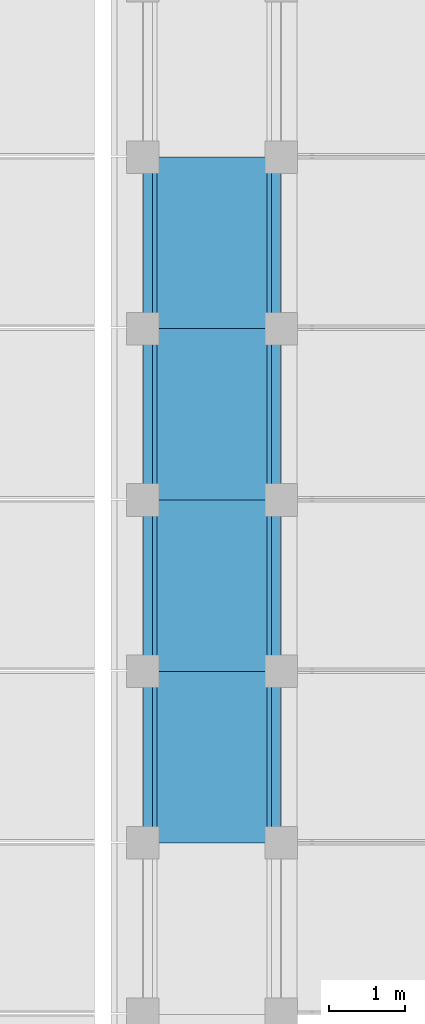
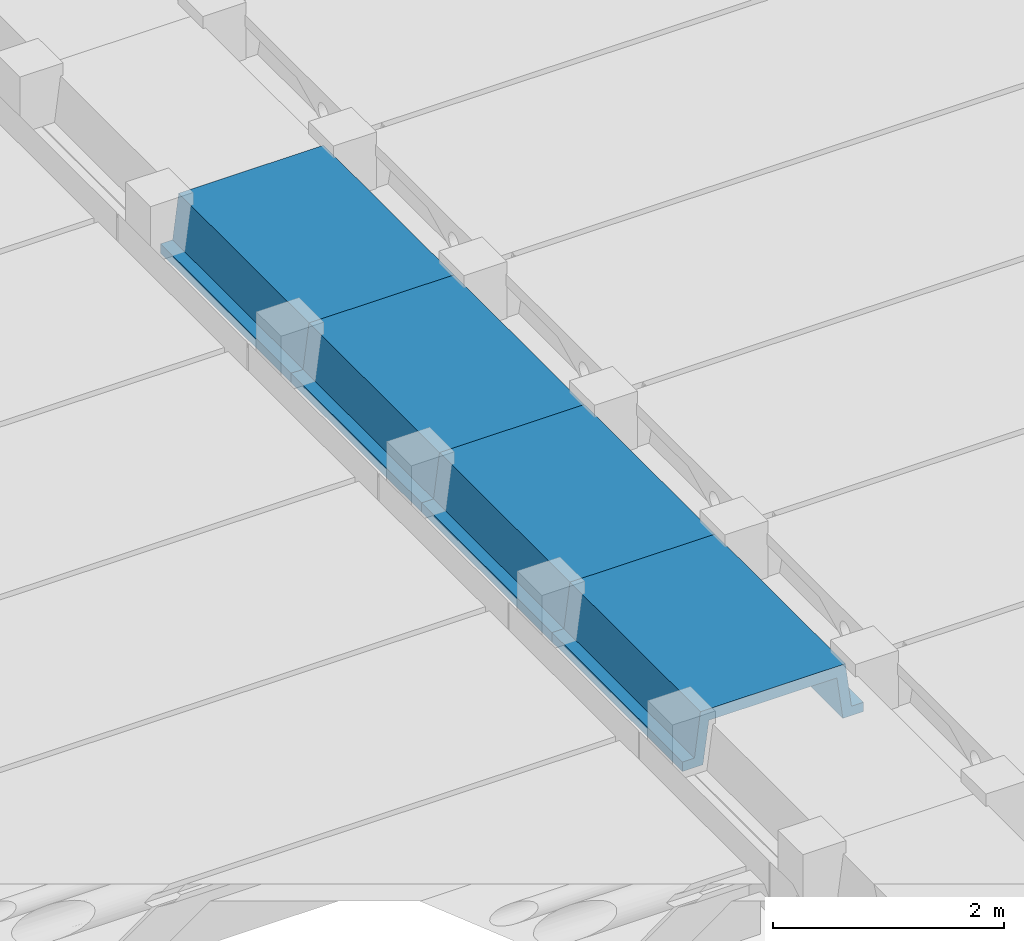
# One storey, part 4 of 25: 4 beams.
"""IFC2X3 building model written with IfcOpenShell, lengths in millimetres."""

from ifc_helpers import new_model, entity, si_unit, converted_unit, derived_unit, direction, frame, origin, place, context, subcontext, project, spatial, polyline, outline, extrude, material, type_object, element, save


model = new_model("IFC2X3")

# Units and contexts
model_context = context("Model", 3, precision=0.01, world=origin(), true_north=direction((6.12303176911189e-17, 1.0)))
body_context = subcontext(model_context, "Body", "Model", "MODEL_VIEW")
ifc_project = project(units=[si_unit("LENGTHUNIT", "METRE", prefix="MILLI"), si_unit("AREAUNIT", "SQUARE_METRE"), si_unit("VOLUMEUNIT", "CUBIC_METRE"), converted_unit("PLANEANGLEUNIT", "DEGREE", entity("IfcRatioMeasure", 0.0174532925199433), si_unit("PLANEANGLEUNIT", "RADIAN"), dimensions=[0, 0, 0, 0, 0, 0, 0]), si_unit("MASSUNIT", "GRAM", prefix="KILO"), derived_unit("MASSDENSITYUNIT", [(si_unit("MASSUNIT", "GRAM", prefix="KILO"), 1), (si_unit("LENGTHUNIT", "METRE"), -3)]), derived_unit("MOMENTOFINERTIAUNIT", [(si_unit("LENGTHUNIT", "METRE"), 4)]), si_unit("TIMEUNIT", "SECOND"), si_unit("FREQUENCYUNIT", "HERTZ"), si_unit("THERMODYNAMICTEMPERATUREUNIT", "DEGREE_CELSIUS"), derived_unit("THERMALTRANSMITTANCEUNIT", [(si_unit("MASSUNIT", "GRAM", prefix="KILO"), 1), (si_unit("THERMODYNAMICTEMPERATUREUNIT", "KELVIN"), -1), (si_unit("TIMEUNIT", "SECOND"), -3)]), derived_unit("VOLUMETRICFLOWRATEUNIT", [(si_unit("LENGTHUNIT", "METRE"), 3), (si_unit("TIMEUNIT", "SECOND"), -1)]), si_unit("ELECTRICCURRENTUNIT", "AMPERE"), si_unit("ELECTRICVOLTAGEUNIT", "VOLT"), si_unit("POWERUNIT", "WATT"), si_unit("FORCEUNIT", "NEWTON", prefix="KILO"), si_unit("ILLUMINANCEUNIT", "LUX"), si_unit("LUMINOUSFLUXUNIT", "LUMEN"), si_unit("LUMINOUSINTENSITYUNIT", "CANDELA"), derived_unit("USERDEFINED", [(si_unit("MASSUNIT", "GRAM", prefix="KILO"), -1), (si_unit("LENGTHUNIT", "METRE"), -2), (si_unit("TIMEUNIT", "SECOND"), 3), (si_unit("LUMINOUSFLUXUNIT", "LUMEN"), 1)]), derived_unit("LINEARVELOCITYUNIT", [(si_unit("LENGTHUNIT", "METRE"), 1), (si_unit("TIMEUNIT", "SECOND"), -1)]), si_unit("PRESSUREUNIT", "PASCAL"), derived_unit("USERDEFINED", [(si_unit("LENGTHUNIT", "METRE"), -2), (si_unit("MASSUNIT", "GRAM", prefix="KILO"), 1), (si_unit("TIMEUNIT", "SECOND"), -2)]), derived_unit("LINEARFORCEUNIT", [(si_unit("MASSUNIT", "GRAM", prefix="KILO"), 1), (si_unit("LENGTHUNIT", "METRE"), 1), (si_unit("TIMEUNIT", "SECOND"), -2), (si_unit("LENGTHUNIT", "METRE"), -1)]), derived_unit("PLANARFORCEUNIT", [(si_unit("MASSUNIT", "GRAM", prefix="KILO"), 1), (si_unit("LENGTHUNIT", "METRE"), 1), (si_unit("TIMEUNIT", "SECOND"), -2), (si_unit("LENGTHUNIT", "METRE"), -2)])], contexts=[model_context])

# Site, building, storey
site_placement = place(None, frame((10627.5135316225, 21939.0796949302, 0.0)))
site = spatial("IfcSite", under=ifc_project, at=site_placement, Name="Default", CompositionType="ELEMENT")
building_placement = place(site_placement, origin())
building = spatial("IfcBuilding", under=site, at=building_placement, CompositionType="ELEMENT")
storey_placement = place(building_placement, origin())
storey = spatial("IfcBuildingStorey", under=building, at=storey_placement, Name="RDC", CompositionType="ELEMENT", Elevation=0.0)

# Beams
ifc_material = material(Name="Concrete, Precast Smooth, Light Grey")
beam_type = type_object("IfcBeamType", Name="Poutre petite:Poutre petite", PredefinedType="NOTDEFINED")
for number, where, z_axis, x_axis, name in (
    (1, (667.48646837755, -8379.07969493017, 3530.0), (0.0, 0.0, 1.0), (0.0, 1.0, 0.0), "Poutre petite:Poutre petite"),
    (2, (667.48646837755, -10639.0796949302, 3530.0), (0.0, 0.0, 1.0), (0.0, 1.0, 0.0), "Poutre petite:Poutre petite"),
    (3, (667.48646837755, -12899.0796949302, 3530.0), (0.0, 0.0, 1.0), (0.0, 1.0, 0.0), "Poutre petite:Poutre petite"),
    (4, (667.48646837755, -15159.0796949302, 3530.0), (0.0, 0.0, 1.0), (0.0, 1.0, 0.0), "Poutre petite:Poutre petite"),
):
    element("IfcBeam", number, at=place(storey_placement, frame(where, z_axis=z_axis, x_axis=x_axis)), inside=storey, type_object=beam_type, material=ifc_material, Name=name, ObjectType="Poutre petite:Poutre petite", context=body_context, shape_type="SweptSolid", body=[
        extrude(outline(polyline([(103.333217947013, -905.013684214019), (203.333564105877, -905.013684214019), (203.333564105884, -700.013730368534), (-246.666782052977, -640.013684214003), (-246.666782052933, 640.013497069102), (203.333564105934, 700.013543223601), (203.333564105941, 905.014058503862), (103.333217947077, 905.014058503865), (103.333217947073, 785.01349706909), (-366.666782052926, 725.013497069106), (-366.666782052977, -725.013684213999), (103.333217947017, -785.013684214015), (103.333217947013, -905.013684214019)])), frame((0.0, -0.000187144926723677, -366.666782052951), z_axis=(1.0, 0.0, 0.0), x_axis=(0.0, 0.0, -1.0)), (0.0, 0.0, 1.0), 2260.0),
    ])

save(model, "model.ifc")
